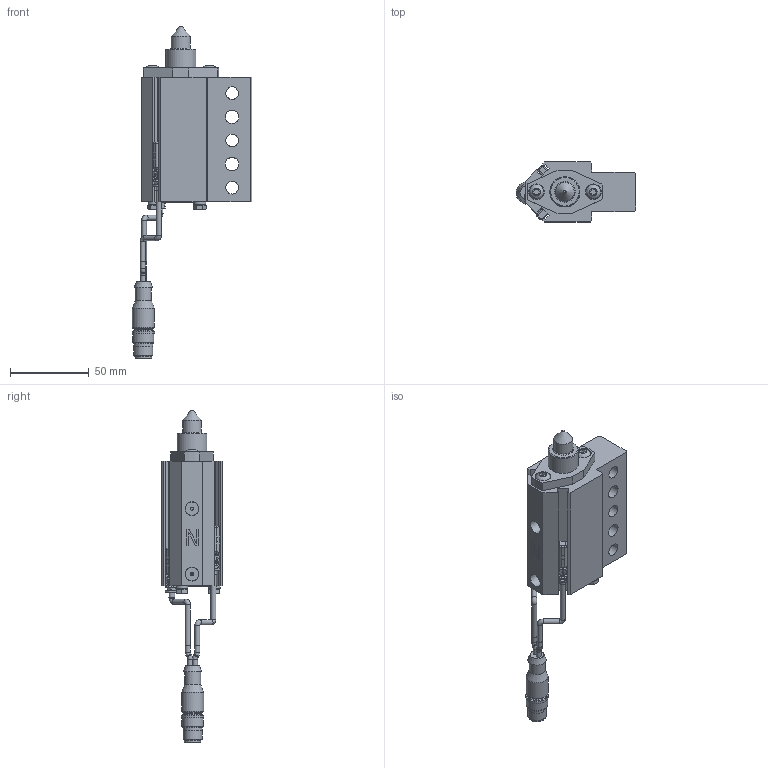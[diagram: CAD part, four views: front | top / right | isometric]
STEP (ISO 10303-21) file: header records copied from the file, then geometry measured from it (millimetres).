
FILE_DESCRIPTION(/* description */ (''),/* implementation_level */ '2;1');
FILE_NAME(/* name */ 'C:\TEMP\RMP1200XNL3.stp',/* time_stamp */ '2018-08-29T09:02:39-04:00',/* author */ ('KLabrecque'),/* organization */ (''),/* preprocessor_version */ 'ST-DEVELOPER v17',/* originating_system */ 'Autodesk Inventor 2018',/* authorisation */ '');
FILE_SCHEMA (('AUTOMOTIVE_DESIGN { 1 0 10303 214 3 1 1 }'));
Length unit declared in the file: millimetre
Products named in the file (13): RMP1200XNL3; NL5; M5X0.8-12 BHCS; RMPE06; RMPE01-PORT; RMPE02; RMPE05-PIN DIA; Micro L0 SWITCH ASSY; Micro_BIM-UNT-Cable-25 STK; Micro_BIM-UNT-Cable2; MPS_CONNECTOR; M4X0.7-6 HEX; NL4
Assembly tree (16 placements, depth 3):
  RMP1200XNL3
    NL5  x2
    M5X0.8-12 BHCS  x2
    RMPE06
    RMPE01-PORT
    RMPE02
    RMPE05-PIN DIA
    Micro L0 SWITCH ASSY
      Micro_BIM-UNT-Cable-25 STK
      Micro_BIM-UNT-Cable2
      MPS_CONNECTOR
    M4X0.7-6 HEX  x2
    NL4  x2
Bounding box: 75.9 x 38.1 x 210.54 mm (x, y, z)
Volume: 145053.9 mm3; surface area: 49635.5 mm2
Topology: 15 solids, 15 shells, 433 faces, 1125 edges, 751 vertices
Faces by surface type: plane 235, cylinder 118, cone 49, bspline 18, torus 12, sphere 1
Full cylindrical faces by diameter (mm): 1.9 x2, 2 x2, 2.6 x2, 3.175 x4, 3.2 x6, 3.242 x2, 4 x4, 4.134 x2, 4.4 x2, 5 x4, 5.4 x2, 5.5 x2, 6.3 x2, 6.647 x2, 7.6 x2, 8 x6, 8.5 x2, 9 x2, 9.5 x2, 9.6 x1, 10 x2, 10.2 x1, 10.49 x1, 11.989 x2, 12 x1, 12.497 x1, 13.005 x1, 13.487 x1, 14 x1, 14.199 x1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
Entity records: 14105 total; most frequent: CARTESIAN_POINT 3354, DIRECTION 2191, ORIENTED_EDGE 2060, EDGE_CURVE 1030, AXIS2_PLACEMENT_3D 813, VERTEX_POINT 695, LINE 565, VECTOR 565
